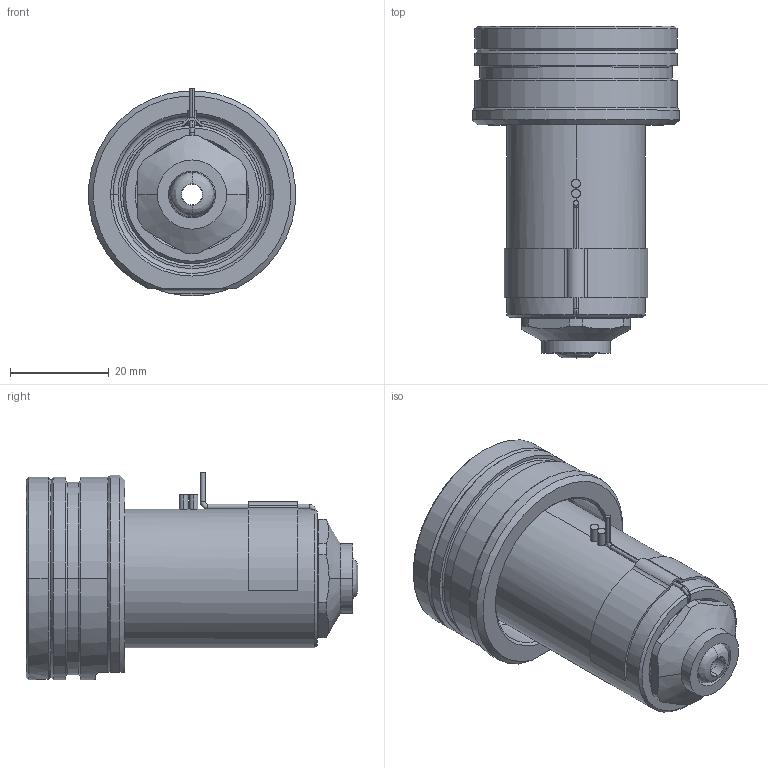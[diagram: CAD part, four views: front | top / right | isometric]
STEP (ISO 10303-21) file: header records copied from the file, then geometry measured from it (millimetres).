
FILE_DESCRIPTION((''),'2;1');
FILE_NAME('EO10_VG-BL_STD_050_SW','2024-02-19T13:08:13',('sundharh'),(''),'CREO PARAMETRIC BY PTC INC, 2023154','CREO PARAMETRIC BY PTC INC, 2023154','');
FILE_SCHEMA(('CONFIG_CONTROL_DESIGN'));
Length unit declared in the file: millimetre
Products named in the file (1): EO10_VG-BL_STD_050_SW
Bounding box: 41.85 x 67.2 x 42.02 mm (x, y, z)
Volume: 44930.3 mm3; surface area: 14697.6 mm2
Topology: 1 solids, 1 shells, 188 faces, 469 edges, 286 vertices
Faces by surface type: cylinder 71, plane 46, cone 35, torus 23, bspline 11, sphere 2
Entity records: 6443 total; most frequent: CARTESIAN_POINT 1878, DIRECTION 1005, ORIENTED_EDGE 934, EDGE_CURVE 467, AXIS2_PLACEMENT_3D 419, VERTEX_POINT 286, CIRCLE 242, EDGE_LOOP 203
